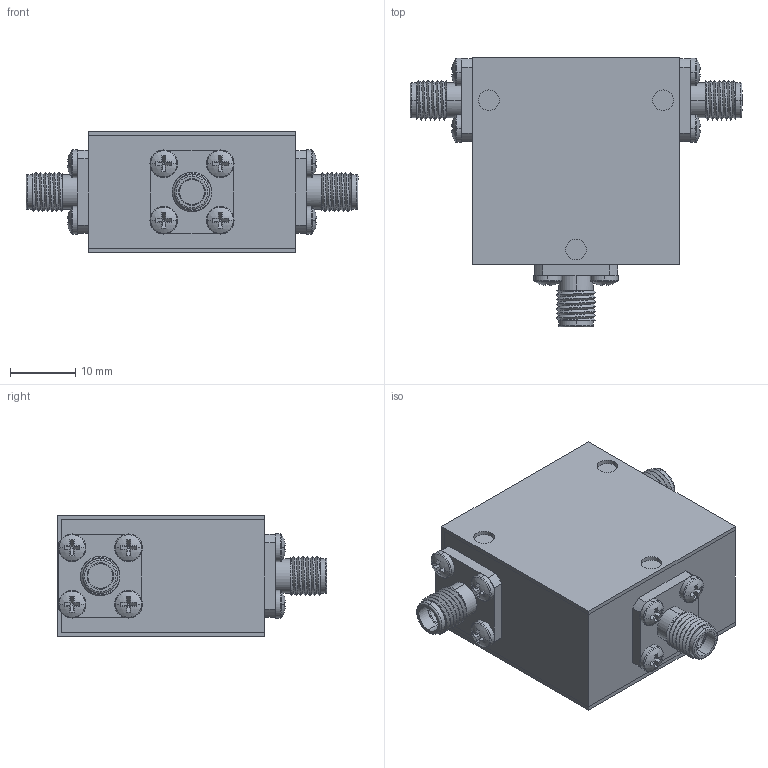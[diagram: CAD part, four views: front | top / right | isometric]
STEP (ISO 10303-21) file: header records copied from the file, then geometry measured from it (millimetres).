
FILE_DESCRIPTION (( 'STEP AP214' ), '1' );
FILE_NAME ('Package 8 Circ FFF.step', '2021-12-01T21:02:06', ( '' ), ( '' ), 'SwSTEP 2.0', 'SolidWorks 2016', '' );
FILE_SCHEMA (( 'AUTOMOTIVE_DESIGN' ));
Length unit declared in the file: inch
Products named in the file (5): Delta SMA-Female 0.500 flange Threaded; Package 8 Circ FFF; Package Size 8; Package 8; pan cross head_ai_CR-PHMS 0.086-56x0.125x0.125-N
Assembly tree (17 placements, depth 2):
  Package 8 Circ FFF
    Package Size 8
    Package 8
    Delta SMA-Female 0.500 flange Threaded  x3
    pan cross head_ai_CR-PHMS 0.086-56x0.125x0.125-N  x12
Bounding box: 50.8 x 41.27 x 18.54 mm (x, y, z)
Volume: 19869.8 mm3; surface area: 12230.7 mm2
Topology: 17 solids, 17 shells, 421 faces, 957 edges, 591 vertices
Faces by surface type: plane 232, cylinder 126, torus 30, sphere 24, bspline 9
Entity records: 3729 total; most frequent: CARTESIAN_POINT 1205, DIRECTION 527, ORIENTED_EDGE 434, EDGE_CURVE 217, AXIS2_PLACEMENT_3D 211, VERTEX_POINT 139, EDGE_LOOP 116, VECTOR 105
